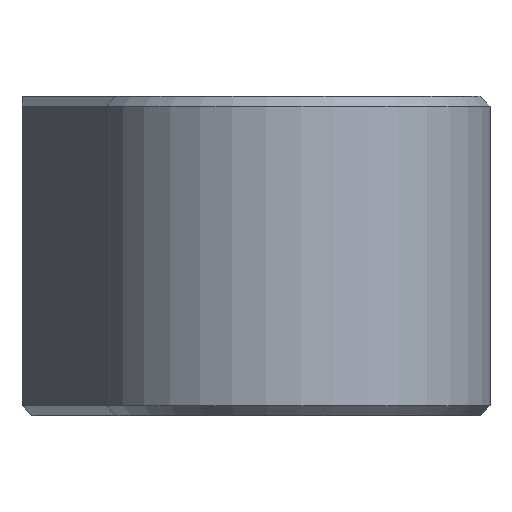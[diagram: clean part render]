
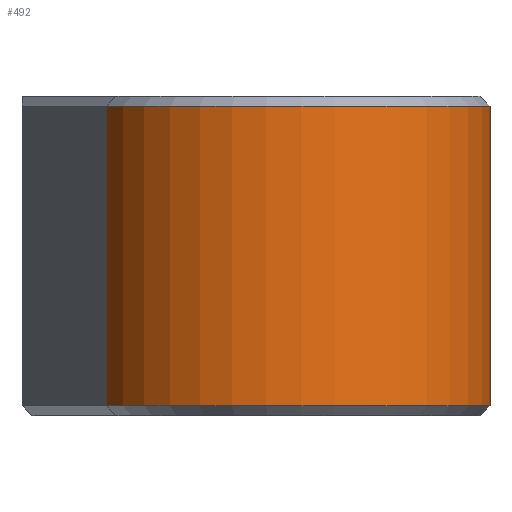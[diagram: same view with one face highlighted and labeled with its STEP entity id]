
A CAD part, left-side view. The second image highlights one B-rep face of the part: STEP entity #492.
In plain terms, the highlighted cylindrical face has radius 5 mm (diameter 10 mm), a partial arc.
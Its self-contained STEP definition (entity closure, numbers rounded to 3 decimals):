
#20=CYLINDRICAL_SURFACE('',#555,5.);
#61=FACE_OUTER_BOUND('',#96,.T.);
#96=EDGE_LOOP('',(#405,#406,#407,#408));
#139=LINE('',#830,#183);
#140=LINE('',#831,#184);
#183=VECTOR('',#677,10.);
#184=VECTOR('',#678,10.);
#207=CIRCLE('',#536,5.);
#215=CIRCLE('',#553,5.);
#233=VERTEX_POINT('',#765);
#234=VERTEX_POINT('',#769);
#248=VERTEX_POINT('',#815);
#250=VERTEX_POINT('',#821);
#281=EDGE_CURVE('',#234,#233,#207,.T.);
#306=EDGE_CURVE('',#248,#250,#215,.T.);
#309=EDGE_CURVE('',#234,#250,#139,.T.);
#310=EDGE_CURVE('',#233,#248,#140,.T.);
#405=ORIENTED_EDGE('',*,*,#281,.F.);
#406=ORIENTED_EDGE('',*,*,#309,.T.);
#407=ORIENTED_EDGE('',*,*,#306,.F.);
#408=ORIENTED_EDGE('',*,*,#310,.F.);
#492=ADVANCED_FACE('',(#61),#20,.T.);
#536=AXIS2_PLACEMENT_3D('',#771,#619,#620);
#553=AXIS2_PLACEMENT_3D('',#825,#669,#670);
#555=AXIS2_PLACEMENT_3D('',#829,#675,#676);
#619=DIRECTION('center_axis',(0.,0.,
1.));
#620=DIRECTION('ref_axis',(0.391,-0.921,0.));
#669=DIRECTION('center_axis',(0.,0.,
-1.));
#670=DIRECTION('ref_axis',(0.391,-0.921,0.));
#675=DIRECTION('center_axis',(0.,0.,-1.));
#676=DIRECTION('ref_axis',(0.391,-0.921,0.));
#677=DIRECTION('',(0.,0.,-1.));
#678=DIRECTION('',(0.,0.,-1.));
#765=CARTESIAN_POINT('',(-78.647,256.321,32.75));
#769=CARTESIAN_POINT('',(-82.553,265.527,32.75));
#771=CARTESIAN_POINT('Origin',(-80.6,260.924,32.75));
#815=CARTESIAN_POINT('',(-78.647,256.321,25.25));
#821=CARTESIAN_POINT('',(-82.553,265.527,25.25));
#825=CARTESIAN_POINT('Origin',(-80.6,260.924,25.25));
#829=CARTESIAN_POINT('Origin',(-80.6,260.924,33.));
#830=CARTESIAN_POINT('',(-82.553,265.527,33.));
#831=CARTESIAN_POINT('',(-78.647,256.321,33.));
